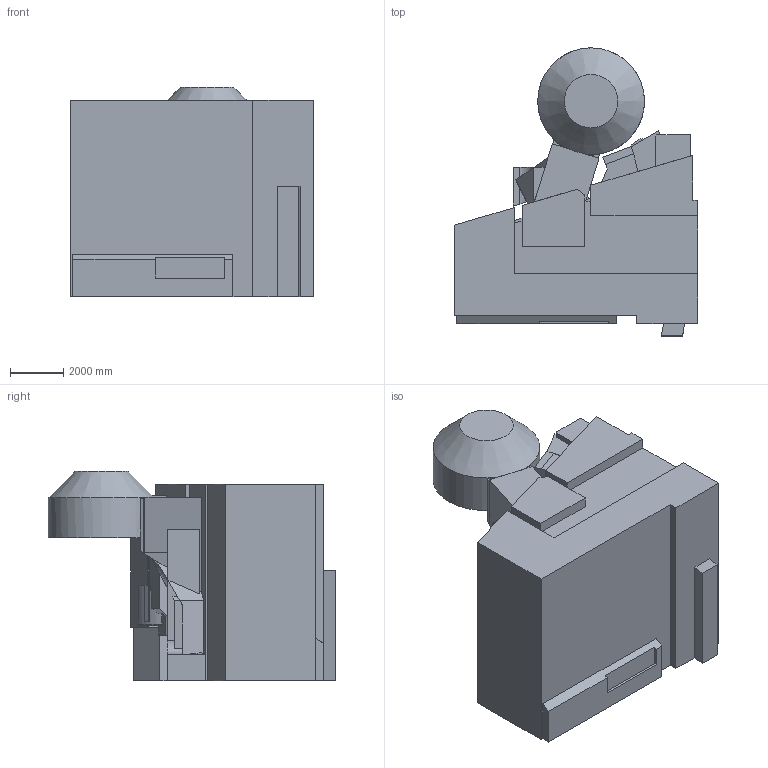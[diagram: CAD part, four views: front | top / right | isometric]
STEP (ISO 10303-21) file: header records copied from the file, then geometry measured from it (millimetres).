
FILE_DESCRIPTION(/* description */ (''),/* implementation_level */ '2;1');
FILE_NAME(/* name */ 'E-MAO-000-00-00-00-00-MOD-03_03 MORFEO System dynamic volume.stp',/* time_stamp */ '2025-11-06T11:48:33+01:00',/* author */ ('Marco'),/* organization */ (''),/* preprocessor_version */ 'ST-DEVELOPER v20',/* originating_system */ 'Autodesk Inventor 2024',/* authorisation */ '');
FILE_SCHEMA (('AUTOMOTIVE_DESIGN { 1 0 10303 214 3 1 1 }'));
Length unit declared in the file: millimetre
Products named in the file (1): E-MAO-000-00-00-00-00-MOD-03_01 MORFEO System dynamic volume
Bounding box: 9109.7 x 10788.93 x 7850 mm (x, y, z)
Volume: 376013244755.4 mm3; surface area: 420619838.9 mm2
Topology: 1 solids, 1 shells, 171 faces, 502 edges, 336 vertices
Faces by surface type: plane 150, bspline 12, cylinder 7, cone 2
Entity records: 6205 total; most frequent: CARTESIAN_POINT 1473, ORIENTED_EDGE 1004, DIRECTION 819, EDGE_CURVE 502, LINE 423, VECTOR 423, VERTEX_POINT 334, AXIS2_PLACEMENT_3D 198
